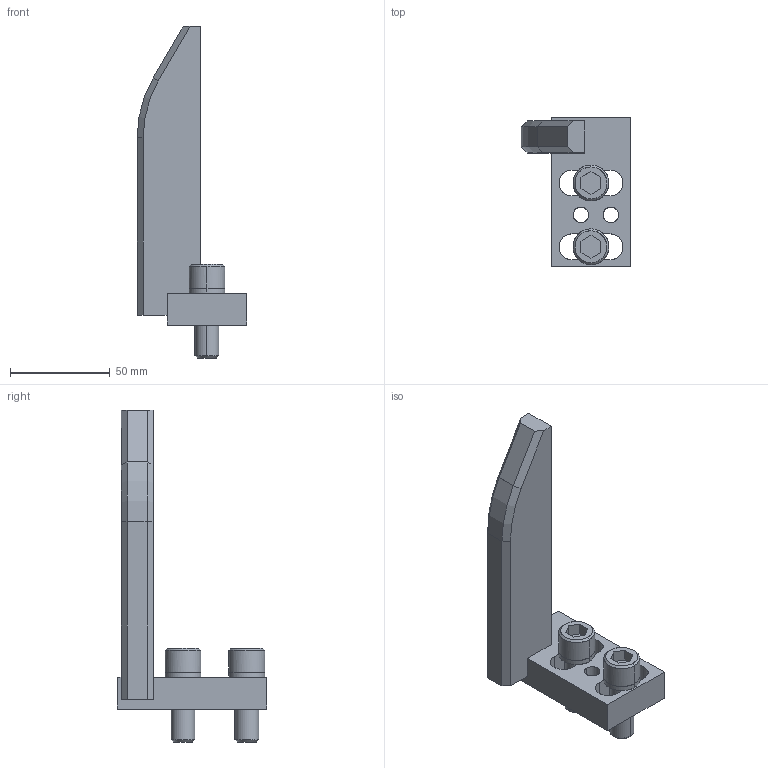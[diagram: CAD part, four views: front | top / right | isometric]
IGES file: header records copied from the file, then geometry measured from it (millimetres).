
Global section: file name: E:\UnigraphicsGraphicData\MISUMI_PRESS-PARTS\IGES\3d_enstr-150-40-m12_01466_r00.igs; native system: NX V5.0; preprocessor: UGS NX IGES V5.0; author: MISUMI; date: 20110105.160634; units: millimetre
Bounding box: 55 x 75 x 166.5 mm (x, y, z)
Surface area: 29486.4 mm2 (no closed solid volume)
Topology: 0 solids, 0 shells, 80 faces, 516 edges, 516 vertices
Faces by surface type: bspline 80
